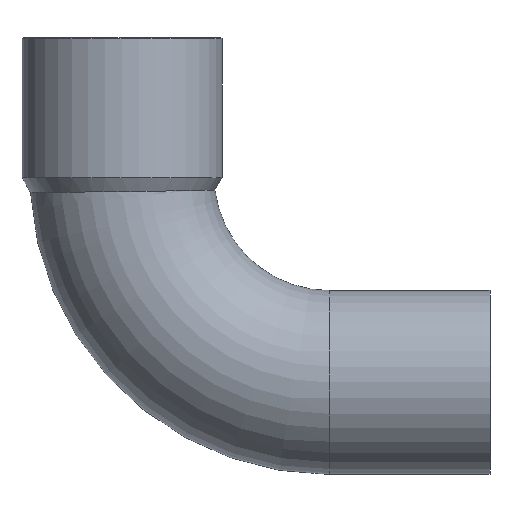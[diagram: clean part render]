
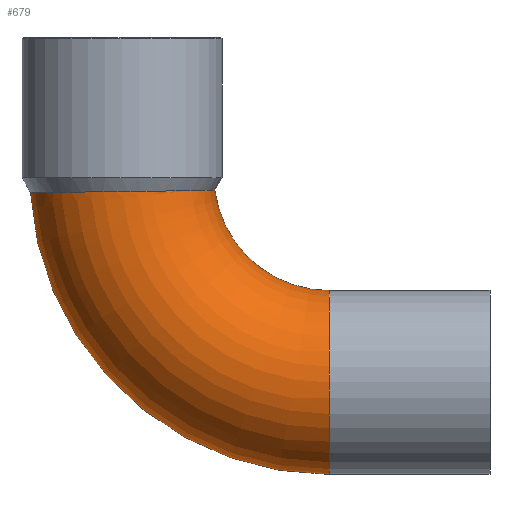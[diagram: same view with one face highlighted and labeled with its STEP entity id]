
A CAD part, front view. The second image highlights one B-rep face of the part: STEP entity #679.
In plain terms, the highlighted toroidal (fillet/blend) face has major radius 18 mm and minor radius 8 mm.
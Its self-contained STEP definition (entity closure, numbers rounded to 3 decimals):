
#49=CARTESIAN_POINT('',(-3.923,0.,-1.472));
#50=VERTEX_POINT('',#49);
#51=CARTESIAN_POINT('',(22.035,0.,-26.0));
#52=VERTEX_POINT('',#51);
#53=CARTESIAN_POINT('',(22.035,0.,0.0));
#54=DIRECTION('',(0.0,-1.0,0.0));
#55=DIRECTION('',(0.0,0.0,-1.0));
#56=AXIS2_PLACEMENT_3D('',#53,#54,#55);
#57=CIRCLE('',#56,26.0);
#58=EDGE_CURVE('',#50,#52,#57,.T.);
#60=CARTESIAN_POINT('',(12.115,0.,-1.262));
#61=VERTEX_POINT('',#60);
#85=CARTESIAN_POINT('',(22.035,0.,-10.0));
#86=VERTEX_POINT('',#85);
#87=CARTESIAN_POINT('',(22.035,0.,0.0));
#88=DIRECTION('',(0.0,1.0,0.0));
#89=DIRECTION('',(0.0,0.0,-1.0));
#90=AXIS2_PLACEMENT_3D('',#87,#88,#89);
#91=CIRCLE('',#90,10.0);
#92=EDGE_CURVE('',#86,#61,#91,.T.);
#210=CARTESIAN_POINT('',(12.115,0.,-1.262));
#211=CARTESIAN_POINT('',(12.115,-0.068,-1.262));
#212=CARTESIAN_POINT('',(12.114,-0.136,-1.262));
#213=CARTESIAN_POINT('',(12.086,-1.243,-1.262));
#214=CARTESIAN_POINT('',(11.856,-2.267,-1.268));
#215=CARTESIAN_POINT('',(11.014,-4.174,-1.288));
#216=CARTESIAN_POINT('',(10.409,-5.038,-1.301));
#217=CARTESIAN_POINT('',(8.9,-6.486,-1.33));
#218=CARTESIAN_POINT('',(8.011,-7.056,-1.346));
#219=CARTESIAN_POINT('',(6.064,-7.824,-1.375));
#220=CARTESIAN_POINT('',(5.025,-8.014,-1.389));
#221=CARTESIAN_POINT('',(2.934,-7.985,-1.413));
#222=CARTESIAN_POINT('',(1.903,-7.767,-1.424));
#223=CARTESIAN_POINT('',(-0.017,-6.949,-1.442));
#224=CARTESIAN_POINT('',(-0.887,-6.357,-1.449));
#225=CARTESIAN_POINT('',(-2.35,-4.873,-1.461));
#226=CARTESIAN_POINT('',(-2.93,-3.997,-1.465));
#227=CARTESIAN_POINT('',(-3.72,-2.071,-1.471));
#228=CARTESIAN_POINT('',(-3.923,-1.041,-1.472));
#229=CARTESIAN_POINT('',(-3.923,0.,-1.472));
#230=B_SPLINE_CURVE_WITH_KNOTS('',3,(#210,#211,#212,#213,#214,#215,#216,#217,#218,#219,#220,#221,#222,#223,#224,#225,#226,#227,#228,#229),.UNSPECIFIED.,.F.,.U.,(4,2,2,2,2,2,2,2,2,4),(-2.524,-2.504,-2.192,-1.878,-1.564,-1.25,-0.937,-0.624,-0.312,0.0),.UNSPECIFIED.);
#231=EDGE_CURVE('',#61,#50,#230,.T.);
#535=CARTESIAN_POINT('',(22.035,0.,-18.0));
#536=DIRECTION('',(-1.0,0.0,0.0));
#537=DIRECTION('',(0.0,0.0,-1.0));
#538=AXIS2_PLACEMENT_3D('',#535,#536,#537);
#539=CIRCLE('',#538,8.0);
#540=EDGE_CURVE('',#52,#86,#539,.T.);
#668=CARTESIAN_POINT('',(22.035,0.,0.0));
#669=DIRECTION('',(0.0,-1.0,0.0));
#670=DIRECTION('',(0.0,0.0,-1.0));
#671=AXIS2_PLACEMENT_3D('',#668,#669,#670);
#672=TOROIDAL_SURFACE('',#671,18.0,8.0);
#673=ORIENTED_EDGE('',*,*,#58,.T.);
#674=ORIENTED_EDGE('',*,*,#540,.T.);
#675=ORIENTED_EDGE('',*,*,#92,.T.);
#676=ORIENTED_EDGE('',*,*,#231,.T.);
#677=EDGE_LOOP('',(#673,#674,#675,#676));
#678=FACE_OUTER_BOUND('',#677,.T.);
#679=ADVANCED_FACE('',(#678),#672,.T.);
